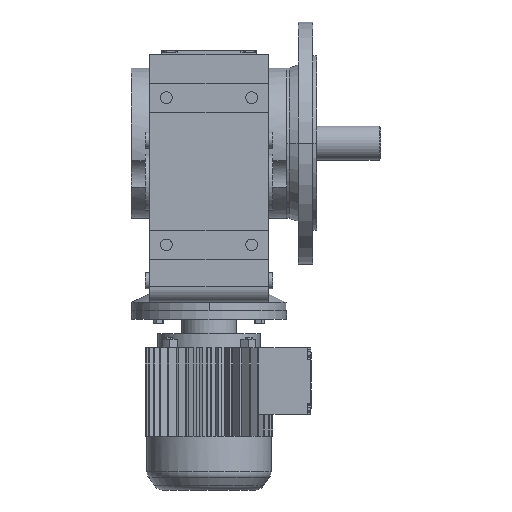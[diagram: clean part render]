
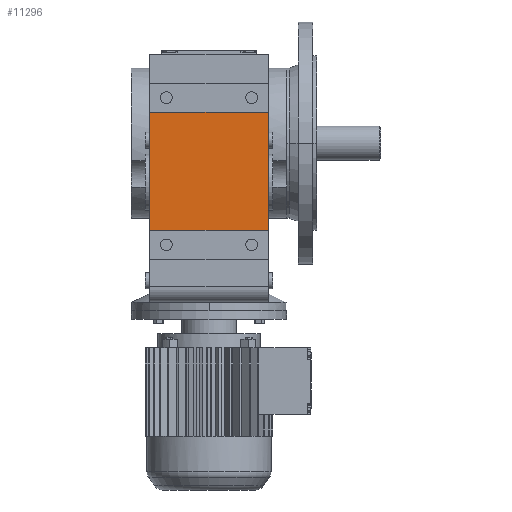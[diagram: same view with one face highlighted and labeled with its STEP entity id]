
A CAD part, front view. The second image highlights one B-rep face of the part: STEP entity #11296.
In plain terms, the highlighted planar face has unit normal (0, -1, 0).
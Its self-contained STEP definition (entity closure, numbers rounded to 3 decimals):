
#894 = PLANE('',#895);
#895 = AXIS2_PLACEMENT_3D('',#896,#897,#898);
#896 = CARTESIAN_POINT('',(-61.,-111.38,-148.35));
#897 = DIRECTION('',(-1.,0.,0.));
#898 = DIRECTION('',(0.,0.,1.));
#5655 = VERTEX_POINT('',#5656);
#5656 = CARTESIAN_POINT('',(-61.,-127.38,-90.));
#5670 = PLANE('',#5671);
#5671 = AXIS2_PLACEMENT_3D('',#5672,#5673,#5674);
#5672 = CARTESIAN_POINT('',(-61.,-127.38,-90.));
#5673 = DIRECTION('',(0.,0.,1.));
#5674 = DIRECTION('',(1.,0.,0.));
#5682 = EDGE_CURVE('',#5683,#5655,#5685,.T.);
#5683 = VERTEX_POINT('',#5684);
#5684 = CARTESIAN_POINT('',(-61.,-127.38,32.));
#5685 = SURFACE_CURVE('',#5686,(#5690,#5697),.PCURVE_S1.);
#5686 = LINE('',#5687,#5688);
#5687 = CARTESIAN_POINT('',(-61.,-127.38,32.));
#5688 = VECTOR('',#5689,1.);
#5689 = DIRECTION('',(0.,0.,-1.));
#5690 = PCURVE('',#894,#5691);
#5691 = DEFINITIONAL_REPRESENTATION('',(#5692),#5696);
#5692 = LINE('',#5693,#5694);
#5693 = CARTESIAN_POINT('',(180.35,-16.));
#5694 = VECTOR('',#5695,1.);
#5695 = DIRECTION('',(-1.,0.));
#5696 = ( GEOMETRIC_REPRESENTATION_CONTEXT(2) 
PARAMETRIC_REPRESENTATION_CONTEXT() REPRESENTATION_CONTEXT('2D SPACE',''
  ) );
#5697 = PCURVE('',#5698,#5703);
#5698 = PLANE('',#5699);
#5699 = AXIS2_PLACEMENT_3D('',#5700,#5701,#5702);
#5700 = CARTESIAN_POINT('',(-61.,-127.38,32.));
#5701 = DIRECTION('',(0.,-1.,0.));
#5702 = DIRECTION('',(0.,0.,-1.));
#5703 = DEFINITIONAL_REPRESENTATION('',(#5704),#5708);
#5704 = LINE('',#5705,#5706);
#5705 = CARTESIAN_POINT('',(0.,0.));
#5706 = VECTOR('',#5707,1.);
#5707 = DIRECTION('',(1.,0.));
#5708 = ( GEOMETRIC_REPRESENTATION_CONTEXT(2) 
PARAMETRIC_REPRESENTATION_CONTEXT() REPRESENTATION_CONTEXT('2D SPACE',''
  ) );
#5726 = PLANE('',#5727);
#5727 = AXIS2_PLACEMENT_3D('',#5728,#5729,#5730);
#5728 = CARTESIAN_POINT('',(-61.,-127.38,32.));
#5729 = DIRECTION('',(0.,0.,-1.));
#5730 = DIRECTION('',(-1.,0.,0.));
#9912 = PLANE('',#9913);
#9913 = AXIS2_PLACEMENT_3D('',#9914,#9915,#9916);
#9914 = CARTESIAN_POINT('',(61.,-111.38,-148.35));
#9915 = DIRECTION('',(-1.,0.,0.));
#9916 = DIRECTION('',(0.,0.,1.));
#10021 = VERTEX_POINT('',#10022);
#10022 = CARTESIAN_POINT('',(61.,-127.38,-90.));
#10043 = EDGE_CURVE('',#5655,#10021,#10044,.T.);
#10044 = SURFACE_CURVE('',#10045,(#10049,#10056),.PCURVE_S1.);
#10045 = LINE('',#10046,#10047);
#10046 = CARTESIAN_POINT('',(-61.,-127.38,-90.));
#10047 = VECTOR('',#10048,1.);
#10048 = DIRECTION('',(1.,0.,0.));
#10049 = PCURVE('',#5670,#10050);
#10050 = DEFINITIONAL_REPRESENTATION('',(#10051),#10055);
#10051 = LINE('',#10052,#10053);
#10052 = CARTESIAN_POINT('',(0.,0.));
#10053 = VECTOR('',#10054,1.);
#10054 = DIRECTION('',(1.,0.));
#10055 = ( GEOMETRIC_REPRESENTATION_CONTEXT(2) 
PARAMETRIC_REPRESENTATION_CONTEXT() REPRESENTATION_CONTEXT('2D SPACE',''
  ) );
#10056 = PCURVE('',#5698,#10057);
#10057 = DEFINITIONAL_REPRESENTATION('',(#10058),#10062);
#10058 = LINE('',#10059,#10060);
#10059 = CARTESIAN_POINT('',(122.,0.));
#10060 = VECTOR('',#10061,1.);
#10061 = DIRECTION('',(0.,1.));
#10062 = ( GEOMETRIC_REPRESENTATION_CONTEXT(2) 
PARAMETRIC_REPRESENTATION_CONTEXT() REPRESENTATION_CONTEXT('2D SPACE',''
  ) );
#11296 = ADVANCED_FACE('',(#11297),#5698,.T.);
#11297 = FACE_BOUND('',#11298,.T.);
#11298 = EDGE_LOOP('',(#11299,#11300,#11323,#11344));
#11299 = ORIENTED_EDGE('',*,*,#10043,.T.);
#11300 = ORIENTED_EDGE('',*,*,#11301,.F.);
#11301 = EDGE_CURVE('',#11302,#10021,#11304,.T.);
#11302 = VERTEX_POINT('',#11303);
#11303 = CARTESIAN_POINT('',(61.,-127.38,32.));
#11304 = SURFACE_CURVE('',#11305,(#11309,#11316),.PCURVE_S1.);
#11305 = LINE('',#11306,#11307);
#11306 = CARTESIAN_POINT('',(61.,-127.38,32.));
#11307 = VECTOR('',#11308,1.);
#11308 = DIRECTION('',(0.,0.,-1.));
#11309 = PCURVE('',#5698,#11310);
#11310 = DEFINITIONAL_REPRESENTATION('',(#11311),#11315);
#11311 = LINE('',#11312,#11313);
#11312 = CARTESIAN_POINT('',(0.,122.));
#11313 = VECTOR('',#11314,1.);
#11314 = DIRECTION('',(1.,0.));
#11315 = ( GEOMETRIC_REPRESENTATION_CONTEXT(2) 
PARAMETRIC_REPRESENTATION_CONTEXT() REPRESENTATION_CONTEXT('2D SPACE',''
  ) );
#11316 = PCURVE('',#9912,#11317);
#11317 = DEFINITIONAL_REPRESENTATION('',(#11318),#11322);
#11318 = LINE('',#11319,#11320);
#11319 = CARTESIAN_POINT('',(180.35,-16.));
#11320 = VECTOR('',#11321,1.);
#11321 = DIRECTION('',(-1.,0.));
#11322 = ( GEOMETRIC_REPRESENTATION_CONTEXT(2) 
PARAMETRIC_REPRESENTATION_CONTEXT() REPRESENTATION_CONTEXT('2D SPACE',''
  ) );
#11323 = ORIENTED_EDGE('',*,*,#11324,.F.);
#11324 = EDGE_CURVE('',#5683,#11302,#11325,.T.);
#11325 = SURFACE_CURVE('',#11326,(#11330,#11337),.PCURVE_S1.);
#11326 = LINE('',#11327,#11328);
#11327 = CARTESIAN_POINT('',(-61.,-127.38,32.));
#11328 = VECTOR('',#11329,1.);
#11329 = DIRECTION('',(1.,0.,0.));
#11330 = PCURVE('',#5698,#11331);
#11331 = DEFINITIONAL_REPRESENTATION('',(#11332),#11336);
#11332 = LINE('',#11333,#11334);
#11333 = CARTESIAN_POINT('',(0.,0.));
#11334 = VECTOR('',#11335,1.);
#11335 = DIRECTION('',(0.,1.));
#11336 = ( GEOMETRIC_REPRESENTATION_CONTEXT(2) 
PARAMETRIC_REPRESENTATION_CONTEXT() REPRESENTATION_CONTEXT('2D SPACE',''
  ) );
#11337 = PCURVE('',#5726,#11338);
#11338 = DEFINITIONAL_REPRESENTATION('',(#11339),#11343);
#11339 = LINE('',#11340,#11341);
#11340 = CARTESIAN_POINT('',(0.,0.));
#11341 = VECTOR('',#11342,1.);
#11342 = DIRECTION('',(-1.,0.));
#11343 = ( GEOMETRIC_REPRESENTATION_CONTEXT(2) 
PARAMETRIC_REPRESENTATION_CONTEXT() REPRESENTATION_CONTEXT('2D SPACE',''
  ) );
#11344 = ORIENTED_EDGE('',*,*,#5682,.T.);
